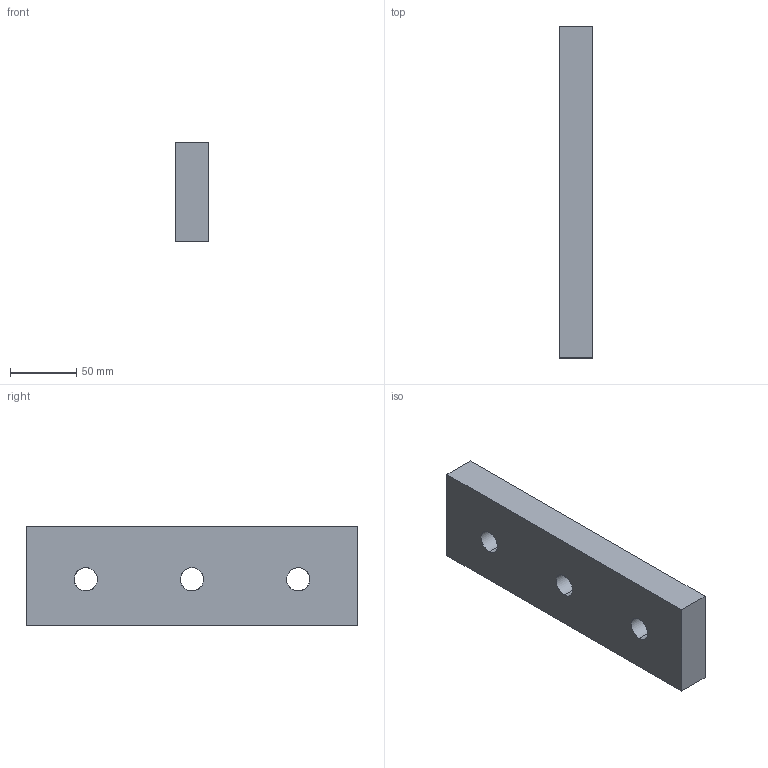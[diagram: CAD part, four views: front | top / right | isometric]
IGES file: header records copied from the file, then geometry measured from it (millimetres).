
Start section: START RECORD GO HERE.
Global section: file name: A612-075-250.igs; native system: DASSAULT SYSTEMES CATIA V5 R20 - www.3ds.com; preprocessor: CATIA Version 5 Release 20 ; author: Utente; organization: NB04-ASUS; date: 20200414.152336; units: millimetre
Bounding box: 25 x 250 x 75 mm (x, y, z)
Surface area: 56430.2 mm2 (no closed solid volume)
Topology: 0 solids, 0 shells, 12 faces, 60 edges, 60 vertices
Faces by surface type: extrusion 6, revolution 6
